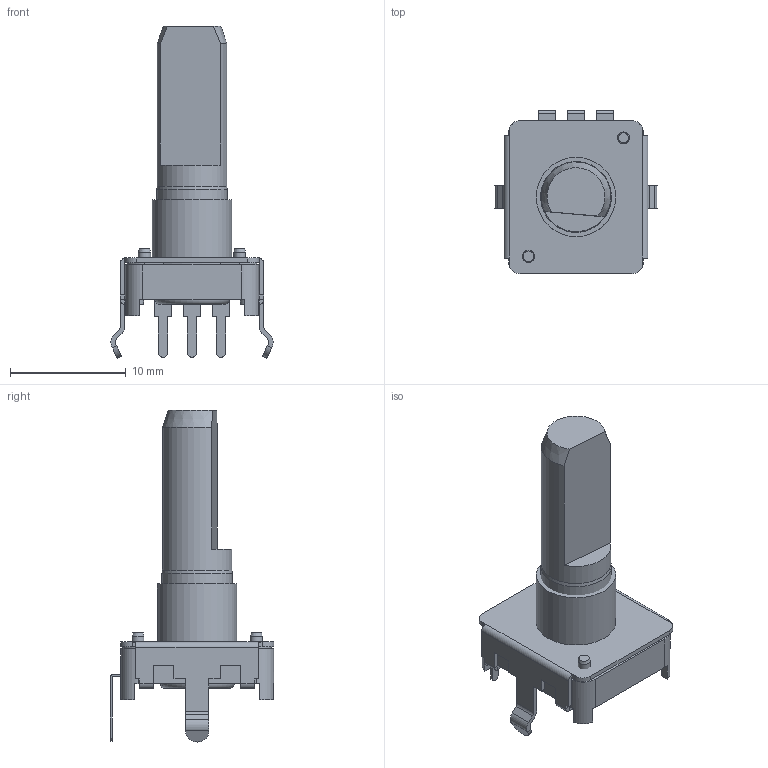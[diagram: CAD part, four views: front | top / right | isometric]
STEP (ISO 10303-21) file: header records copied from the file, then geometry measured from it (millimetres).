
FILE_DESCRIPTION(/* description */ (''),/* implementation_level */ '2;1');
FILE_NAME(/* name */ '\\Forward-ks-ad\開發專區\\X2\9AD896C45EE08A2D8A088AB2\X0\\設計機種開發作業\\X2\91CF75226A5F7A2E5C086848\X0\\ENCODER\機種開發\Encoder\DC12K\3D\CTS\DC12K2420447.stp',/* time_stamp */ '2020-06-16T10:16:34+08:00',/* author */ ('jia'),/* organization */ (''),/* preprocessor_version */ 'ST-DEVELOPER v15.2',/* originating_system */ 'Autodesk Inventor 2014',/* authorisation */ '');
FILE_SCHEMA (('AUTOMOTIVE_DESIGN { 1 0 10303 214 3 1 1 }'));
Length unit declared in the file: millimetre
Products named in the file (1): 組合1_Shrinkwrap_1
Bounding box: 14.01 x 14.09 x 28.63 mm (x, y, z)
Surface area: 1682.3 mm2 (no closed solid volume)
Topology: 0 solids, 16 shells, 209 faces, 616 edges, 416 vertices
Faces by surface type: plane 150, cylinder 54, cone 4, torus 1
Full cylindrical faces by diameter (mm): 1.031 x1, 1.067 x1, 6 x1, 6.1 x1, 6.849 x1
Entity records: 7084 total; most frequent: CARTESIAN_POINT 1253, DIRECTION 1172, ORIENTED_EDGE 1069, EDGE_CURVE 605, LINE 446, VECTOR 446, VERTEX_POINT 414, AXIS2_PLACEMENT_3D 363
